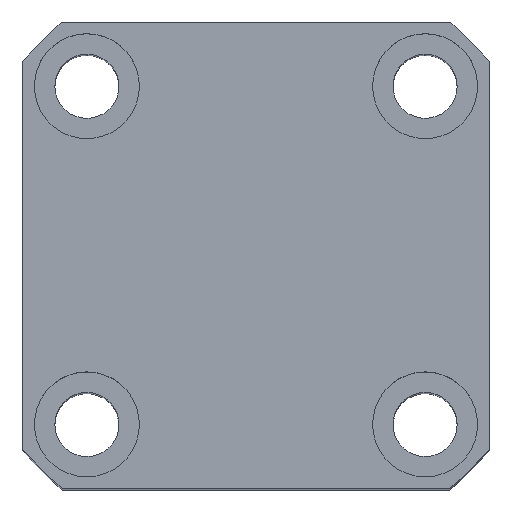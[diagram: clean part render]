
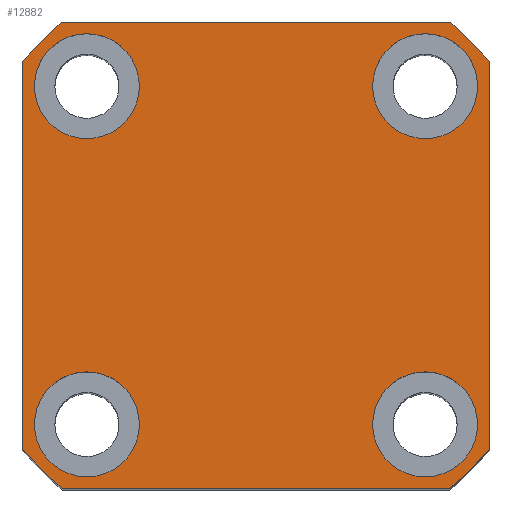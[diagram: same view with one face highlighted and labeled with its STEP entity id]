
A CAD part, top view. The second image highlights one B-rep face of the part: STEP entity #12882.
In plain terms, the highlighted planar face has unit normal (0, 0, 1).
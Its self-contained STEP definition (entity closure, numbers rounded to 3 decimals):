
#293 = CARTESIAN_POINT ( 'NONE',  ( 40., 33.226, 72.5 ) ) ;
#302 = CARTESIAN_POINT ( 'NONE',  ( -20., 29., 72.5 ) ) ;
#563 = DIRECTION ( 'NONE',  ( 1., 0., 0. ) ) ;
#727 = EDGE_CURVE ( 'NONE', #3965, #12152, #7190, .T. ) ;
#781 = EDGE_LOOP ( 'NONE', ( #12873, #11502 ) ) ;
#1027 = CIRCLE ( 'NONE', #8828, 9. ) ;
#1045 = EDGE_CURVE ( 'NONE', #3893, #8105, #3088, .T. ) ;
#1067 = DIRECTION ( 'NONE',  ( 1., 0., 0. ) ) ;
#1234 = EDGE_LOOP ( 'NONE', ( #10205, #10879, #7174, #7016, #1966, #3239, #14522, #13955 ) ) ;
#1276 = EDGE_CURVE ( 'NONE', #8105, #2998, #8615, .T. ) ;
#1307 = VERTEX_POINT ( 'NONE', #6358 ) ;
#1467 = CARTESIAN_POINT ( 'NONE',  ( -38., 29., 72.5 ) ) ;
#1470 = CIRCLE ( 'NONE', #6535, 9. ) ;
#1493 = EDGE_CURVE ( 'NONE', #4016, #1884, #1470, .T. ) ;
#1508 = CARTESIAN_POINT ( 'NONE',  ( -29., 29., 72.5 ) ) ;
#1669 = AXIS2_PLACEMENT_3D ( 'NONE', #5065, #14205, #12903 ) ;
#1705 = EDGE_CURVE ( 'NONE', #8158, #1307, #2534, .T. ) ;
#1753 = LINE ( 'NONE', #8996, #1923 ) ;
#1829 = CARTESIAN_POINT ( 'NONE',  ( 20., 29., 72.5 ) ) ;
#1884 = VERTEX_POINT ( 'NONE', #12177 ) ;
#1887 = EDGE_CURVE ( 'NONE', #2998, #13601, #4348, .T. ) ;
#1923 = VECTOR ( 'NONE', #3208, 1000. ) ;
#1955 = DIRECTION ( 'NONE',  ( 0., -1., 0. ) ) ;
#1966 = ORIENTED_EDGE ( 'NONE', *, *, #14203, .T. ) ;
#2317 = DIRECTION ( 'NONE',  ( 1., 0., 0. ) ) ;
#2534 = CIRCLE ( 'NONE', #3598, 9. ) ;
#2659 = DIRECTION ( 'NONE',  ( 0., 0., 1. ) ) ;
#2707 = ORIENTED_EDGE ( 'NONE', *, *, #1493, .F. ) ;
#2713 = DIRECTION ( 'NONE',  ( 0., 0., 1. ) ) ;
#2889 = CARTESIAN_POINT ( 'NONE',  ( 40., 33.226, 72.5 ) ) ;
#2998 = VERTEX_POINT ( 'NONE', #8815 ) ;
#3088 = CIRCLE ( 'NONE', #9784, 52. ) ;
#3180 = ORIENTED_EDGE ( 'NONE', *, *, #727, .F. ) ;
#3208 = DIRECTION ( 'NONE',  ( -1., 0., 0. ) ) ;
#3239 = ORIENTED_EDGE ( 'NONE', *, *, #7326, .T. ) ;
#3330 = FACE_BOUND ( 'NONE', #6079, .T. ) ;
#3375 = DIRECTION ( 'NONE',  ( 1., 0., 0. ) ) ;
#3395 = VECTOR ( 'NONE', #8559, 1000. ) ;
#3470 = DIRECTION ( 'NONE',  ( 0., 0., 1. ) ) ;
#3522 = EDGE_LOOP ( 'NONE', ( #6036, #12275 ) ) ;
#3540 = CARTESIAN_POINT ( 'NONE',  ( 0., 0., 72.5 ) ) ;
#3554 = ORIENTED_EDGE ( 'NONE', *, *, #6190, .F. ) ;
#3580 = VERTEX_POINT ( 'NONE', #12409 ) ;
#3598 = AXIS2_PLACEMENT_3D ( 'NONE', #12867, #9350, #8250 ) ;
#3859 = CARTESIAN_POINT ( 'NONE',  ( -40., 33.226, 72.5 ) ) ;
#3893 = VERTEX_POINT ( 'NONE', #5986 ) ;
#3933 = DIRECTION ( 'NONE',  ( 1., 0., 0. ) ) ;
#3965 = VERTEX_POINT ( 'NONE', #1829 ) ;
#4016 = VERTEX_POINT ( 'NONE', #4152 ) ;
#4054 = FACE_BOUND ( 'NONE', #781, .T. ) ;
#4152 = CARTESIAN_POINT ( 'NONE',  ( 20., -29., 72.5 ) ) ;
#4348 = CIRCLE ( 'NONE', #13309, 52. ) ;
#4394 = CIRCLE ( 'NONE', #10172, 9. ) ;
#4503 = EDGE_CURVE ( 'NONE', #13787, #10849, #4768, .T. ) ;
#4510 = DIRECTION ( 'NONE',  ( 0., 0., 1. ) ) ;
#4528 = DIRECTION ( 'NONE',  ( 0., 0., 1. ) ) ;
#4535 = VECTOR ( 'NONE', #1955, 1000. ) ;
#4709 = LINE ( 'NONE', #14085, #8246 ) ;
#4716 = DIRECTION ( 'NONE',  ( 1., 0., 0. ) ) ;
#4768 = CIRCLE ( 'NONE', #10908, 9. ) ;
#5065 = CARTESIAN_POINT ( 'NONE',  ( 29., -29., 72.5 ) ) ;
#5150 = DIRECTION ( 'NONE',  ( 0., 0., 1. ) ) ;
#5221 = CARTESIAN_POINT ( 'NONE',  ( 0., 0., 72.5 ) ) ;
#5275 = DIRECTION ( 'NONE',  ( 0., 0., 1. ) ) ;
#5613 = DIRECTION ( 'NONE',  ( 0., 0., 1. ) ) ;
#5777 = AXIS2_PLACEMENT_3D ( 'NONE', #8620, #5150, #7371 ) ;
#5970 = DIRECTION ( 'NONE',  ( 1., 0., 0. ) ) ;
#5986 = CARTESIAN_POINT ( 'NONE',  ( -33.226, 40., 72.5 ) ) ;
#6036 = ORIENTED_EDGE ( 'NONE', *, *, #11298, .F. ) ;
#6059 = VERTEX_POINT ( 'NONE', #7048 ) ;
#6079 = EDGE_LOOP ( 'NONE', ( #13861, #3180 ) ) ;
#6188 = AXIS2_PLACEMENT_3D ( 'NONE', #7959, #4528, #2317 ) ;
#6190 = EDGE_CURVE ( 'NONE', #1884, #4016, #7204, .T. ) ;
#6260 = DIRECTION ( 'NONE',  ( 0., 0., 1. ) ) ;
#6358 = CARTESIAN_POINT ( 'NONE',  ( -20., -29., 72.5 ) ) ;
#6535 = AXIS2_PLACEMENT_3D ( 'NONE', #13730, #3470, #3375 ) ;
#6779 = EDGE_CURVE ( 'NONE', #13601, #14107, #4709, .T. ) ;
#7016 = ORIENTED_EDGE ( 'NONE', *, *, #6779, .T. ) ;
#7048 = CARTESIAN_POINT ( 'NONE',  ( 40., -33.226, 72.5 ) ) ;
#7174 = ORIENTED_EDGE ( 'NONE', *, *, #1887, .T. ) ;
#7190 = CIRCLE ( 'NONE', #5777, 9. ) ;
#7199 = CARTESIAN_POINT ( 'NONE',  ( 29., 29., 72.5 ) ) ;
#7204 = CIRCLE ( 'NONE', #1669, 9. ) ;
#7326 = EDGE_CURVE ( 'NONE', #6059, #13928, #9443, .T. ) ;
#7371 = DIRECTION ( 'NONE',  ( 1., 0., 0. ) ) ;
#7959 = CARTESIAN_POINT ( 'NONE',  ( 0., 0., 72.5 ) ) ;
#8105 = VERTEX_POINT ( 'NONE', #3859 ) ;
#8158 = VERTEX_POINT ( 'NONE', #13091 ) ;
#8246 = VECTOR ( 'NONE', #9602, 1000. ) ;
#8250 = DIRECTION ( 'NONE',  ( 1., 0., 0. ) ) ;
#8462 = CARTESIAN_POINT ( 'NONE',  ( 38., 29., 72.5 ) ) ;
#8559 = DIRECTION ( 'NONE',  ( 0., 1., 0. ) ) ;
#8615 = LINE ( 'NONE', #8834, #4535 ) ;
#8620 = CARTESIAN_POINT ( 'NONE',  ( 29., 29., 72.5 ) ) ;
#8747 = AXIS2_PLACEMENT_3D ( 'NONE', #10129, #5613, #1067 ) ;
#8815 = CARTESIAN_POINT ( 'NONE',  ( -40., -33.226, 72.5 ) ) ;
#8828 = AXIS2_PLACEMENT_3D ( 'NONE', #12998, #12854, #563 ) ;
#8834 = CARTESIAN_POINT ( 'NONE',  ( -40., 33.226, 72.5 ) ) ;
#8851 = AXIS2_PLACEMENT_3D ( 'NONE', #7199, #12971, #5970 ) ;
#8996 = CARTESIAN_POINT ( 'NONE',  ( -33.226, 40., 72.5 ) ) ;
#9350 = DIRECTION ( 'NONE',  ( 0., 0., 1. ) ) ;
#9443 = LINE ( 'NONE', #2889, #3395 ) ;
#9528 = DIRECTION ( 'NONE',  ( 1., 0., 0. ) ) ;
#9602 = DIRECTION ( 'NONE',  ( 1., 0., 0. ) ) ;
#9617 = EDGE_CURVE ( 'NONE', #3580, #3893, #1753, .T. ) ;
#9784 = AXIS2_PLACEMENT_3D ( 'NONE', #3540, #2713, #10656 ) ;
#10129 = CARTESIAN_POINT ( 'NONE',  ( 0., 0., 72.5 ) ) ;
#10172 = AXIS2_PLACEMENT_3D ( 'NONE', #14177, #6260, #3933 ) ;
#10205 = ORIENTED_EDGE ( 'NONE', *, *, #1045, .T. ) ;
#10264 = FACE_BOUND ( 'NONE', #3522, .T. ) ;
#10309 = CARTESIAN_POINT ( 'NONE',  ( 0., 0., 72.5 ) ) ;
#10656 = DIRECTION ( 'NONE',  ( 1., 0., 0. ) ) ;
#10764 = CIRCLE ( 'NONE', #8851, 9. ) ;
#10849 = VERTEX_POINT ( 'NONE', #302 ) ;
#10879 = ORIENTED_EDGE ( 'NONE', *, *, #1276, .T. ) ;
#10908 = AXIS2_PLACEMENT_3D ( 'NONE', #1508, #2659, #9528 ) ;
#11298 = EDGE_CURVE ( 'NONE', #10849, #13787, #1027, .T. ) ;
#11428 = EDGE_LOOP ( 'NONE', ( #3554, #2707 ) ) ;
#11502 = ORIENTED_EDGE ( 'NONE', *, *, #1705, .F. ) ;
#11692 = FACE_OUTER_BOUND ( 'NONE', #1234, .T. ) ;
#12152 = VERTEX_POINT ( 'NONE', #8462 ) ;
#12177 = CARTESIAN_POINT ( 'NONE',  ( 38., -29., 72.5 ) ) ;
#12273 = CARTESIAN_POINT ( 'NONE',  ( 33.226, -40., 72.5 ) ) ;
#12275 = ORIENTED_EDGE ( 'NONE', *, *, #4503, .F. ) ;
#12409 = CARTESIAN_POINT ( 'NONE',  ( 33.226, 40., 72.5 ) ) ;
#12411 = FACE_BOUND ( 'NONE', #11428, .T. ) ;
#12450 = EDGE_CURVE ( 'NONE', #13928, #3580, #13479, .T. ) ;
#12650 = PLANE ( 'NONE',  #13998 ) ;
#12854 = DIRECTION ( 'NONE',  ( 0., 0., 1. ) ) ;
#12867 = CARTESIAN_POINT ( 'NONE',  ( -29., -29., 72.5 ) ) ;
#12873 = ORIENTED_EDGE ( 'NONE', *, *, #13973, .F. ) ;
#12882 = ADVANCED_FACE ( 'NONE', ( #12411, #4054, #10264, #3330, #11692 ), #12650, .T. ) ;
#12903 = DIRECTION ( 'NONE',  ( 1., 0., 0. ) ) ;
#12971 = DIRECTION ( 'NONE',  ( 0., 0., 1. ) ) ;
#12998 = CARTESIAN_POINT ( 'NONE',  ( -29., 29., 72.5 ) ) ;
#13084 = CIRCLE ( 'NONE', #6188, 52. ) ;
#13091 = CARTESIAN_POINT ( 'NONE',  ( -38., -29., 72.5 ) ) ;
#13309 = AXIS2_PLACEMENT_3D ( 'NONE', #5221, #5275, #14431 ) ;
#13479 = CIRCLE ( 'NONE', #8747, 52. ) ;
#13485 = CARTESIAN_POINT ( 'NONE',  ( -33.226, -40., 72.5 ) ) ;
#13601 = VERTEX_POINT ( 'NONE', #13485 ) ;
#13730 = CARTESIAN_POINT ( 'NONE',  ( 29., -29., 72.5 ) ) ;
#13787 = VERTEX_POINT ( 'NONE', #1467 ) ;
#13861 = ORIENTED_EDGE ( 'NONE', *, *, #13878, .F. ) ;
#13878 = EDGE_CURVE ( 'NONE', #12152, #3965, #10764, .T. ) ;
#13928 = VERTEX_POINT ( 'NONE', #293 ) ;
#13955 = ORIENTED_EDGE ( 'NONE', *, *, #9617, .T. ) ;
#13973 = EDGE_CURVE ( 'NONE', #1307, #8158, #4394, .T. ) ;
#13998 = AXIS2_PLACEMENT_3D ( 'NONE', #10309, #4510, #4716 ) ;
#14085 = CARTESIAN_POINT ( 'NONE',  ( -33.226, -40., 72.5 ) ) ;
#14107 = VERTEX_POINT ( 'NONE', #12273 ) ;
#14177 = CARTESIAN_POINT ( 'NONE',  ( -29., -29., 72.5 ) ) ;
#14203 = EDGE_CURVE ( 'NONE', #14107, #6059, #13084, .T. ) ;
#14205 = DIRECTION ( 'NONE',  ( 0., 0., 1. ) ) ;
#14431 = DIRECTION ( 'NONE',  ( 1., 0., 0. ) ) ;
#14522 = ORIENTED_EDGE ( 'NONE', *, *, #12450, .T. ) ;
